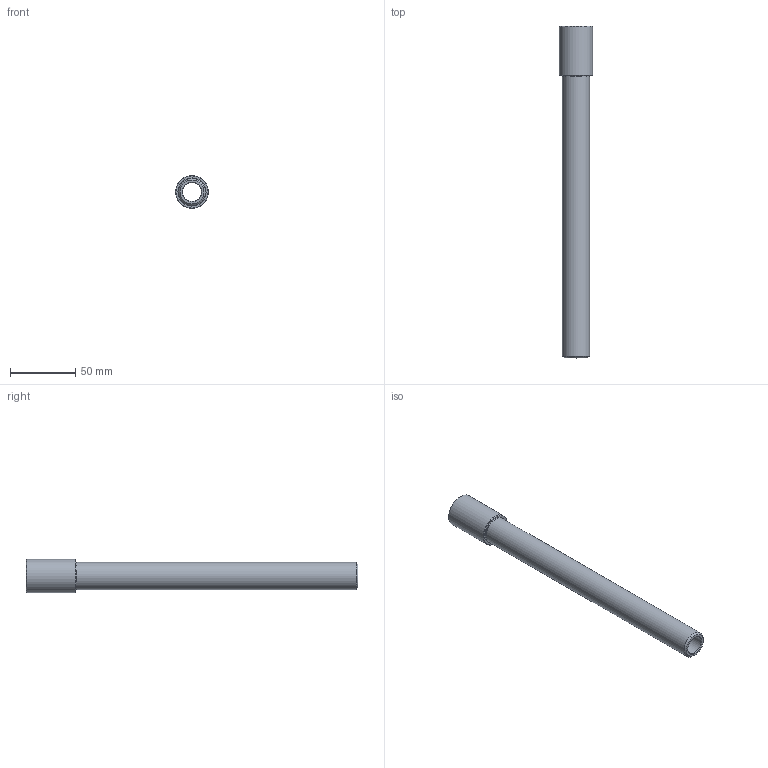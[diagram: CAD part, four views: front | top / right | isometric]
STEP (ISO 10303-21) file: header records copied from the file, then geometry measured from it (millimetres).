
FILE_DESCRIPTION(/* description */ (''),/* implementation_level */ '2;1');
FILE_NAME(/* name */ 'C:/Users/drich/Desktop/EP12X10 v1.step',/* time_stamp */ '2019-11-18T14:46:51-06:00',/* author */ (''),/* organization */ (''),/* preprocessor_version */ 'ST-DEVELOPER v18',/* originating_system */ 'Autodesk Translation Framework v8.12.0.6',/* authorisation */ '');
FILE_SCHEMA (('AUTOMOTIVE_DESIGN { 1 0 10303 214 3 1 1 }'));
Length unit declared in the file: inch
Products named in the file (2): EP12X10; EP12X4
Assembly tree (1 placements, depth 2):
  EP12X10
    EP12X4
Bounding box: 25.4 x 254 x 25.4 mm (x, y, z)
Volume: 49326.9 mm3; surface area: 29513.9 mm2
Topology: 1 solids, 1 shells, 23 faces, 55 edges, 37 vertices
Faces by surface type: plane 11, cone 7, cylinder 5
Full cylindrical faces by diameter (mm): 14.275 x1, 17.145 x1, 18.901 x1, 20.813 x1, 25.4 x1
Entity records: 740 total; most frequent: CARTESIAN_POINT 132, DIRECTION 124, ORIENTED_EDGE 110, EDGE_CURVE 55, AXIS2_PLACEMENT_3D 50, VERTEX_POINT 37, EDGE_LOOP 28, LINE 24
